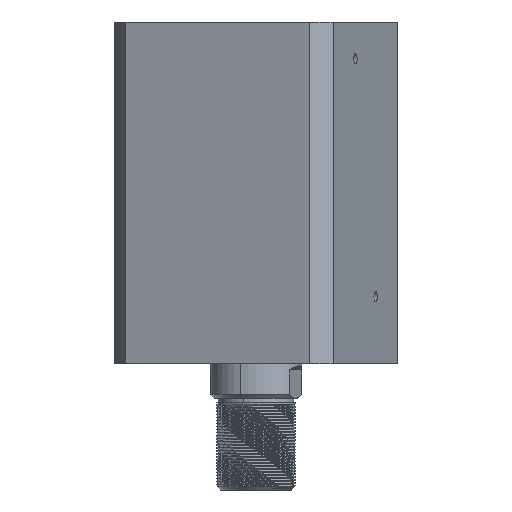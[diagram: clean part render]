
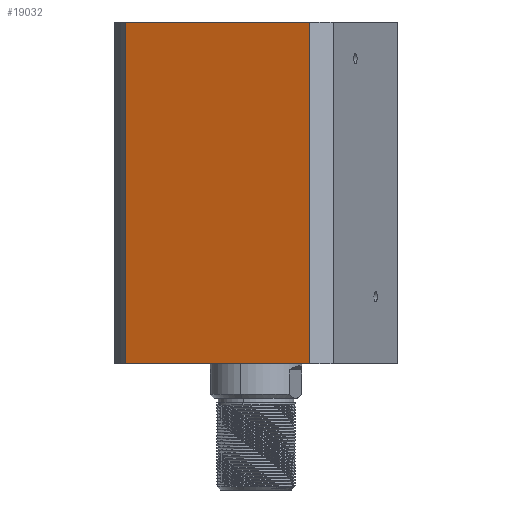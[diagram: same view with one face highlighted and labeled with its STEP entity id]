
A CAD part, front view. The second image highlights one B-rep face of the part: STEP entity #19032.
In plain terms, the highlighted planar face has unit normal (-0.331, -0.944, 0) as drawn and (-1, 0, 0) by its records, which use the part's own axes.
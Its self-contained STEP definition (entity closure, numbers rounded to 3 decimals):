
#1577 = VERTEX_POINT ( 'NONE', #15356 ) ;
#2092 = CARTESIAN_POINT ( 'NONE',  ( -57., 47.971, 168. ) ) ;
#2534 = DIRECTION ( 'NONE',  ( 0., 1., 0. ) ) ;
#2865 = VERTEX_POINT ( 'NONE', #16729 ) ;
#3002 = CARTESIAN_POINT ( 'NONE',  ( -57., -47.971, -132. ) ) ;
#3781 = ORIENTED_EDGE ( 'NONE', *, *, #17986, .F. ) ;
#4063 = ORIENTED_EDGE ( 'NONE', *, *, #13001, .T. ) ;
#4487 = LINE ( 'NONE', #7101, #12462 ) ;
#7023 = VECTOR ( 'NONE', #12537, 1000. ) ;
#7101 = CARTESIAN_POINT ( 'NONE',  ( -57., 47.971, -132. ) ) ;
#8543 = LINE ( 'NONE', #11005, #16476 ) ;
#8723 = DIRECTION ( 'NONE',  ( 0., 0., 1. ) ) ;
#10444 = CARTESIAN_POINT ( 'NONE',  ( -57., 57., 168. ) ) ;
#10773 = CARTESIAN_POINT ( 'NONE',  ( -57., -47.971, 168. ) ) ;
#11005 = CARTESIAN_POINT ( 'NONE',  ( -57., 57., 0. ) ) ;
#11141 = CARTESIAN_POINT ( 'NONE',  ( -57., 57., 168. ) ) ;
#11306 = VECTOR ( 'NONE', #18998, 1000. ) ;
#12043 = DIRECTION ( 'NONE',  ( 1., 0., 0. ) ) ;
#12133 = ORIENTED_EDGE ( 'NONE', *, *, #14456, .F. ) ;
#12299 = LINE ( 'NONE', #11141, #11306 ) ;
#12462 = VECTOR ( 'NONE', #8723, 1000. ) ;
#12537 = DIRECTION ( 'NONE',  ( 0., 0., -1. ) ) ;
#13001 = EDGE_CURVE ( 'NONE', #2865, #1577, #8543, .T. ) ;
#13080 = EDGE_CURVE ( 'NONE', #13243, #15137, #12299, .T. ) ;
#13243 = VERTEX_POINT ( 'NONE', #2092 ) ;
#13564 = EDGE_LOOP ( 'NONE', ( #3781, #4063, #12133, #20051 ) ) ;
#14456 = EDGE_CURVE ( 'NONE', #15137, #1577, #15482, .T. ) ;
#15137 = VERTEX_POINT ( 'NONE', #10773 ) ;
#15356 = CARTESIAN_POINT ( 'NONE',  ( -57., -47.971, 0. ) ) ;
#15482 = LINE ( 'NONE', #3002, #7023 ) ;
#16476 = VECTOR ( 'NONE', #18859, 1000. ) ;
#16729 = CARTESIAN_POINT ( 'NONE',  ( -57., 47.971, 0. ) ) ;
#17118 = FACE_OUTER_BOUND ( 'NONE', #13564, .T. ) ;
#17986 = EDGE_CURVE ( 'NONE', #2865, #13243, #4487, .T. ) ;
#18859 = DIRECTION ( 'NONE',  ( 0., -1., 0. ) ) ;
#18998 = DIRECTION ( 'NONE',  ( 0., -1., 0. ) ) ;
#19032 = ADVANCED_FACE ( 'NONE', ( #17118 ), #19892, .F. ) ;
#19595 = AXIS2_PLACEMENT_3D ( 'NONE', #10444, #12043, #2534 ) ;
#19892 = PLANE ( 'NONE',  #19595 ) ;
#20051 = ORIENTED_EDGE ( 'NONE', *, *, #13080, .F. ) ;
